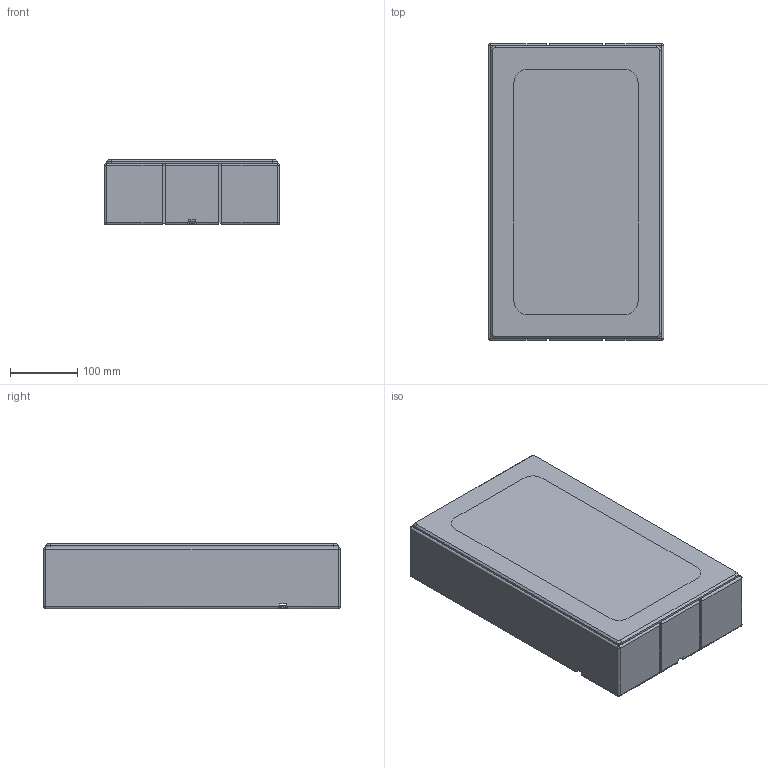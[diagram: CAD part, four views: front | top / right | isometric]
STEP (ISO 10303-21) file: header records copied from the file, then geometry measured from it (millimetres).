
FILE_DESCRIPTION(/* description */ ('STEP AP203'),/* implementation_level */ '2;1');
FILE_NAME(/* name */ 'NEW_3D Drawings THE6_P_OW.step',/* time_stamp */ '2025-06-23T11:02:59+02:00',/* author */ (''),/* organization */ (''),/* preprocessor_version */ 'ST-DEVELOPER v20.1',/* originating_system */ 'Autodesk Translation Framework v14.10.0.0',/* authorisation */ '');
FILE_SCHEMA (('AUTOMOTIVE_DESIGN { 1 0 10303 214 3 1 1 }'));
Products named in the file (3): The 6_Assembly Drawing_20250511; Grille; THE6 Passive On Wall
Assembly tree (2 placements, depth 2):
  The 6_Assembly Drawing_20250511
    Grille
    THE6 Passive On Wall
Bounding box: 260 x 440 x 97 mm (x, y, z)
Volume: 10190819.9 mm3; surface area: 691872.2 mm2
Topology: 3 solids, 11 shells, 2980 faces, 7841 edges, 5072 vertices
Faces by surface type: plane 1740, bspline 484, cylinder 469, cone 206, torus 56, sphere 25
Full cylindrical faces by diameter (mm): 2.5 x48, 2.542 x8, 3.5 x4, 3.6 x24, 4 x24, 5.4 x4, 5.8 x4, 6 x4, 6.5 x32, 7.3 x4, 8 x4, 10.2 x8, 10.3 x8, 11.5 x2, 11.706 x2, 34 x4, 153 x1, 158 x1, 178.4 x1, 179 x1
Entity records: 111906 total; most frequent: CARTESIAN_POINT 39633, ORIENTED_EDGE 15664, DIRECTION 13909, EDGE_CURVE 7832, VERTEX_POINT 5072, LINE 4967, VECTOR 4967, AXIS2_PLACEMENT_3D 4471
